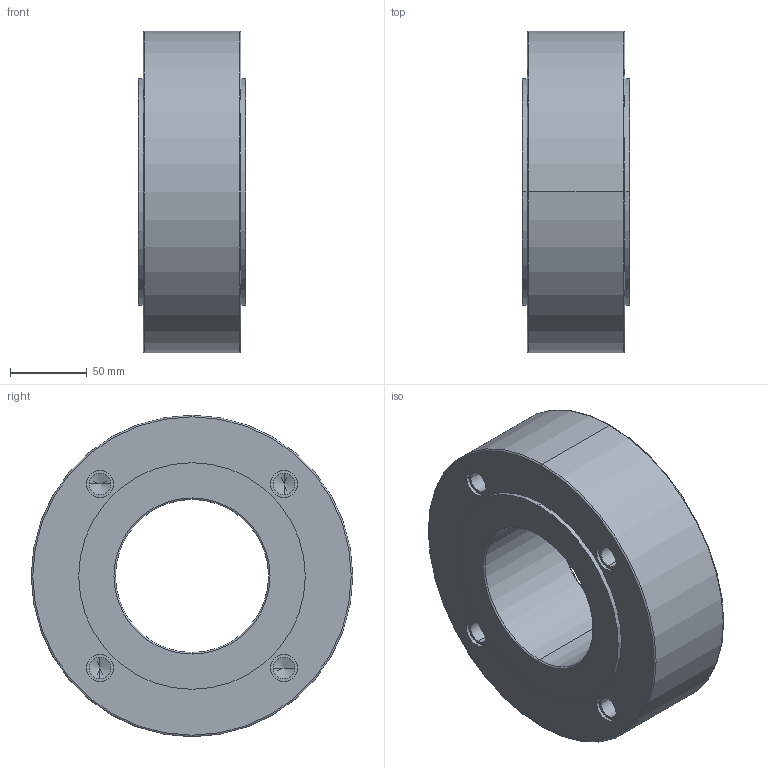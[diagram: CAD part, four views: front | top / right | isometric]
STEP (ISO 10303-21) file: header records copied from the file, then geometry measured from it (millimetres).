
FILE_DESCRIPTION (( 'STEP AP203' ), '1' );
FILE_NAME ('W8_PN06_DN100.STEP', '2012-10-31T07:09:36', ( 'luca.saino' ), ( 'Hewlett-Packard Company' ), 'SwSTEP 2.0', 'SolidWorks 2012', '' );
FILE_SCHEMA (( 'CONFIG_CONTROL_DESIGN' ));
Length unit declared in the file: millimetre
Products named in the file (1): W8_PN06_DN100
Bounding box: 70 x 210 x 210 mm (x, y, z)
Volume: 1740904.7 mm3; surface area: 127489.9 mm2
Topology: 1 solids, 1 shells, 76 faces, 168 edges, 96 vertices
Faces by surface type: cylinder 40, cone 16, plane 12, torus 8
Entity records: 2085 total; most frequent: DIRECTION 402, CARTESIAN_POINT 325, ORIENTED_EDGE 304, AXIS2_PLACEMENT_3D 173, EDGE_CURVE 152, CIRCLE 96, EDGE_LOOP 96, VERTEX_POINT 96
